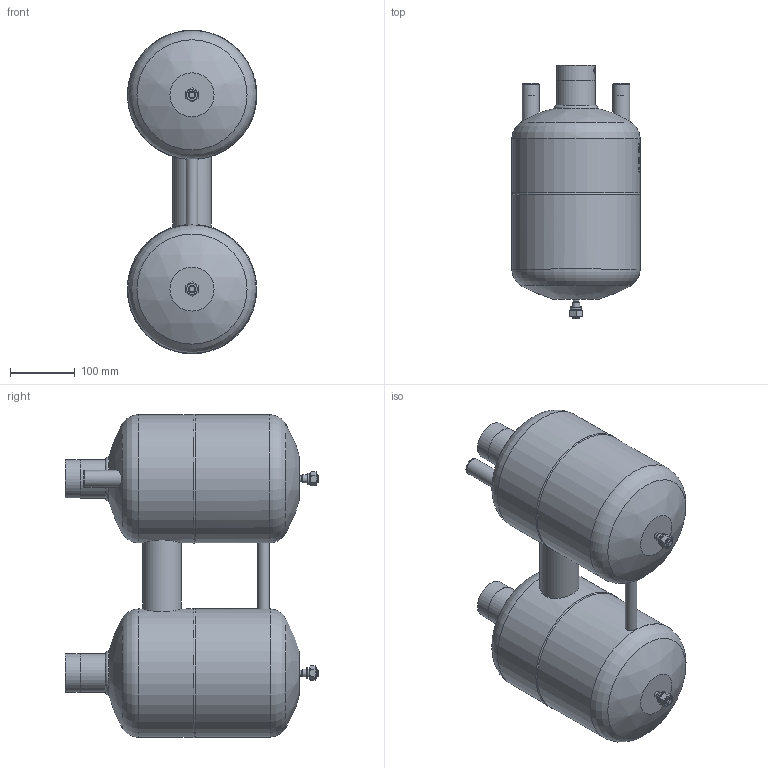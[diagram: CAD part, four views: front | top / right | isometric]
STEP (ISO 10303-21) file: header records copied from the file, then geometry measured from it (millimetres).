
FILE_DESCRIPTION(/* description */ (''),/* implementation_level */ '2;1');
FILE_NAME(/* name */ 'P:\FA\FA-54WT\FA-54WT.stp',/* time_stamp */ '2017-10-05T07:58:19+02:00',/* author */ ('neufeld'),/* organization */ (''),/* preprocessor_version */ 'ST-DEVELOPER v16.1',/* originating_system */ 'Autodesk Inventor 2016',/* authorisation */ '');
FILE_SCHEMA (('AUTOMOTIVE_DESIGN { 1 0 10303 214 3 1 1 }'));
Length unit declared in the file: millimetre
Products named in the file (2): FA-54WT; FA-54WT_1
Assembly tree (1 placements, depth 2):
  FA-54WT_1
    FA-54WT
Bounding box: 200.05 x 391.31 x 499.96 mm (x, y, z)
Volume: 17017592.5 mm3; surface area: 493937.2 mm2
Topology: 3 solids, 3 shells, 1310 faces, 3521 edges, 2343 vertices
Faces by surface type: plane 728, bspline 424, cylinder 134, cone 12, torus 8, sphere 4
Full cylindrical faces by diameter (mm): 9 x2, 12 x4, 18 x1, 22.4 x2, 25.4 x2, 26 x2, 54.3 x2, 59 x2, 59.5 x2, 60 x1, 198 x4
Entity records: 50090 total; most frequent: CARTESIAN_POINT 19491, ORIENTED_EDGE 6934, DIRECTION 5315, EDGE_CURVE 3467, VERTEX_POINT 2333, AXIS2_PLACEMENT_3D 1838, LINE 1639, VECTOR 1639
